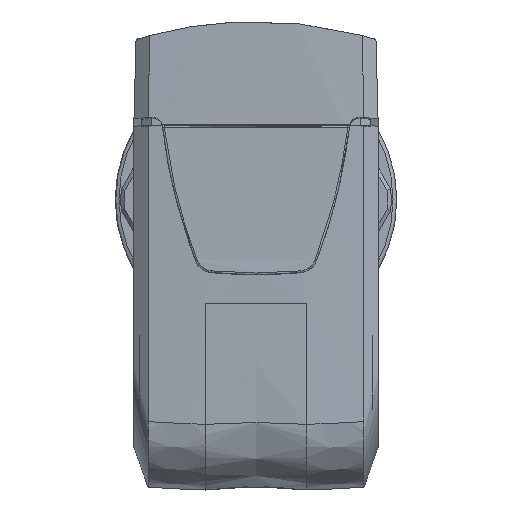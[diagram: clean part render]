
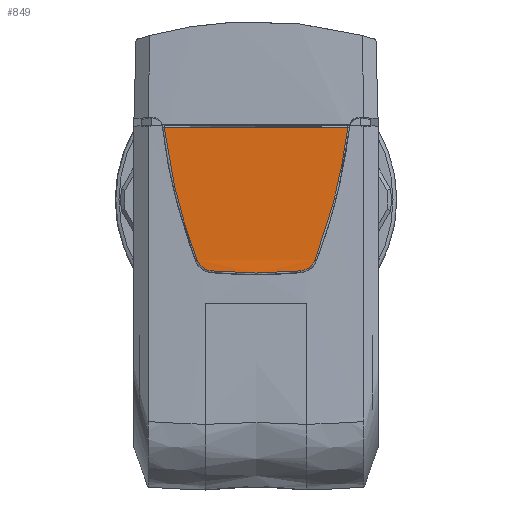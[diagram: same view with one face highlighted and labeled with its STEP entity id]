
A CAD part, left-side view. The second image highlights one B-rep face of the part: STEP entity #849.
In plain terms, the highlighted cylindrical face has radius 84.625 mm (diameter 169.25 mm), a partial arc.
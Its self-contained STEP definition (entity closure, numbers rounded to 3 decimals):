
#575=FACE_OUTER_BOUND('',#1264,.T.);
#849=ADVANCED_FACE('',(#575),#918,.T.);
#918=CYLINDRICAL_SURFACE('',#2989,84.625);
#1264=EDGE_LOOP('',(#1943,#1944,#1945,#1946,#1947,#1948));
#1943=ORIENTED_EDGE('',*,*,#2580,.T.);
#1944=ORIENTED_EDGE('',*,*,#2581,.T.);
#1945=ORIENTED_EDGE('',*,*,#2582,.T.);
#1946=ORIENTED_EDGE('',*,*,#2583,.T.);
#1947=ORIENTED_EDGE('',*,*,#2584,.T.);
#1948=ORIENTED_EDGE('',*,*,#2585,.T.);
#2242=VERTEX_POINT('',#6239);
#2243=VERTEX_POINT('',#6240);
#2244=VERTEX_POINT('',#6248);
#2245=VERTEX_POINT('',#6253);
#2246=VERTEX_POINT('',#6267);
#2247=VERTEX_POINT('',#6272);
#2580=EDGE_CURVE('',#2242,#2243,#2761,.T.);
#2581=EDGE_CURVE('',#2243,#2244,#2762,.T.);
#2582=EDGE_CURVE('',#2244,#2245,#2763,.T.);
#2583=EDGE_CURVE('',#2245,#2246,#2764,.T.);
#2584=EDGE_CURVE('',#2246,#2247,#2765,.T.);
#2585=EDGE_CURVE('',#2247,#2242,#2766,.T.);
#2761=B_SPLINE_CURVE_WITH_KNOTS('',3,(#6235,#6236,#6237,#6238),
 .UNSPECIFIED.,.F.,.F.,(4,4),(0.,1.),.UNSPECIFIED.);
#2762=B_SPLINE_CURVE_WITH_KNOTS('',3,(#6241,#6242,#6243,#6244,#6245,#6246,
#6247),.UNSPECIFIED.,.F.,.F.,(4,3,4),(0.,0.5,1.),
 .UNSPECIFIED.);
#2763=B_SPLINE_CURVE_WITH_KNOTS('',3,(#6249,#6250,#6251,#6252),
 .UNSPECIFIED.,.F.,.F.,(4,4),(0.,1.),.UNSPECIFIED.);
#2764=B_SPLINE_CURVE_WITH_KNOTS('',3,(#6254,#6255,#6256,#6257,#6258,#6259,
#6260,#6261,#6262,#6263,#6264,#6265,#6266),.UNSPECIFIED.,.F.,.F.,(4,3,3,
3,4),(0.,0.087,0.391,0.696,1.),
 .UNSPECIFIED.);
#2765=B_SPLINE_CURVE_WITH_KNOTS('',3,(#6268,#6269,#6270,#6271),
 .UNSPECIFIED.,.F.,.F.,(4,4),(0.,1.),.UNSPECIFIED.);
#2766=B_SPLINE_CURVE_WITH_KNOTS('',3,(#6273,#6274,#6275,#6276,#6277,#6278,
#6279,#6280,#6281,#6282,#6283,#6284,#6285),.UNSPECIFIED.,.F.,.F.,(4,3,3,
3,4),(0.,0.088,0.392,0.696,1.),
 .UNSPECIFIED.);
#2989=AXIS2_PLACEMENT_3D('',#6286,#3522,#3523);
#3522=DIRECTION('',(0.,0.,1.));
#3523=DIRECTION('',(0.,-1.,0.));
#6235=CARTESIAN_POINT('',(-44.045,-3.136,12.288));
#6236=CARTESIAN_POINT('',(-44.013,-4.004,14.559));
#6237=CARTESIAN_POINT('',(-43.979,-4.597,16.953));
#6238=CARTESIAN_POINT('',(-43.962,-4.889,19.367));
#6239=CARTESIAN_POINT('',(-44.045,-3.136,12.288));
#6240=CARTESIAN_POINT('',(-43.962,-4.889,19.367));
#6241=CARTESIAN_POINT('',(-43.962,-4.889,19.367));
#6242=CARTESIAN_POINT('',(-44.056,-3.262,19.375));
#6243=CARTESIAN_POINT('',(-44.103,-1.63,19.38));
#6244=CARTESIAN_POINT('',(-44.103,0.,19.38));
#6245=CARTESIAN_POINT('',(-44.103,1.63,19.38));
#6246=CARTESIAN_POINT('',(-44.056,3.262,19.375));
#6247=CARTESIAN_POINT('',(-43.962,4.889,19.367));
#6248=CARTESIAN_POINT('',(-43.962,4.889,19.367));
#6249=CARTESIAN_POINT('',(-43.962,4.889,19.367));
#6250=CARTESIAN_POINT('',(-43.979,4.597,16.953));
#6251=CARTESIAN_POINT('',(-44.013,4.004,14.559));
#6252=CARTESIAN_POINT('',(-44.045,3.136,12.288));
#6253=CARTESIAN_POINT('',(-44.045,3.136,12.288));
#6254=CARTESIAN_POINT('',(-44.045,3.136,12.288));
#6255=CARTESIAN_POINT('',(-44.046,3.125,12.261));
#6256=CARTESIAN_POINT('',(-44.046,3.113,12.234));
#6257=CARTESIAN_POINT('',(-44.047,3.1,12.208));
#6258=CARTESIAN_POINT('',(-44.048,3.055,12.118));
#6259=CARTESIAN_POINT('',(-44.051,2.994,12.034));
#6260=CARTESIAN_POINT('',(-44.053,2.921,11.964));
#6261=CARTESIAN_POINT('',(-44.056,2.849,11.894));
#6262=CARTESIAN_POINT('',(-44.058,2.764,11.835));
#6263=CARTESIAN_POINT('',(-44.061,2.672,11.793));
#6264=CARTESIAN_POINT('',(-44.064,2.58,11.75));
#6265=CARTESIAN_POINT('',(-44.067,2.48,11.723));
#6266=CARTESIAN_POINT('',(-44.07,2.38,11.714));
#6267=CARTESIAN_POINT('',(-44.07,2.38,11.714));
#6268=CARTESIAN_POINT('',(-44.07,2.38,11.714));
#6269=CARTESIAN_POINT('',(-44.114,0.801,11.562));
#6270=CARTESIAN_POINT('',(-44.114,-0.801,11.562));
#6271=CARTESIAN_POINT('',(-44.07,-2.38,11.714));
#6272=CARTESIAN_POINT('',(-44.07,-2.38,11.714));
#6273=CARTESIAN_POINT('',(-44.07,-2.38,11.714));
#6274=CARTESIAN_POINT('',(-44.069,-2.409,11.717));
#6275=CARTESIAN_POINT('',(-44.068,-2.438,11.721));
#6276=CARTESIAN_POINT('',(-44.067,-2.467,11.726));
#6277=CARTESIAN_POINT('',(-44.065,-2.566,11.746));
#6278=CARTESIAN_POINT('',(-44.062,-2.663,11.783));
#6279=CARTESIAN_POINT('',(-44.059,-2.75,11.834));
#6280=CARTESIAN_POINT('',(-44.056,-2.837,11.885));
#6281=CARTESIAN_POINT('',(-44.053,-2.917,11.951));
#6282=CARTESIAN_POINT('',(-44.051,-2.982,12.028));
#6283=CARTESIAN_POINT('',(-44.049,-3.047,12.105));
#6284=CARTESIAN_POINT('',(-44.047,-3.1,12.194));
#6285=CARTESIAN_POINT('',(-44.045,-3.136,12.288));
#6286=CARTESIAN_POINT('',(40.522,0.,1.5));
